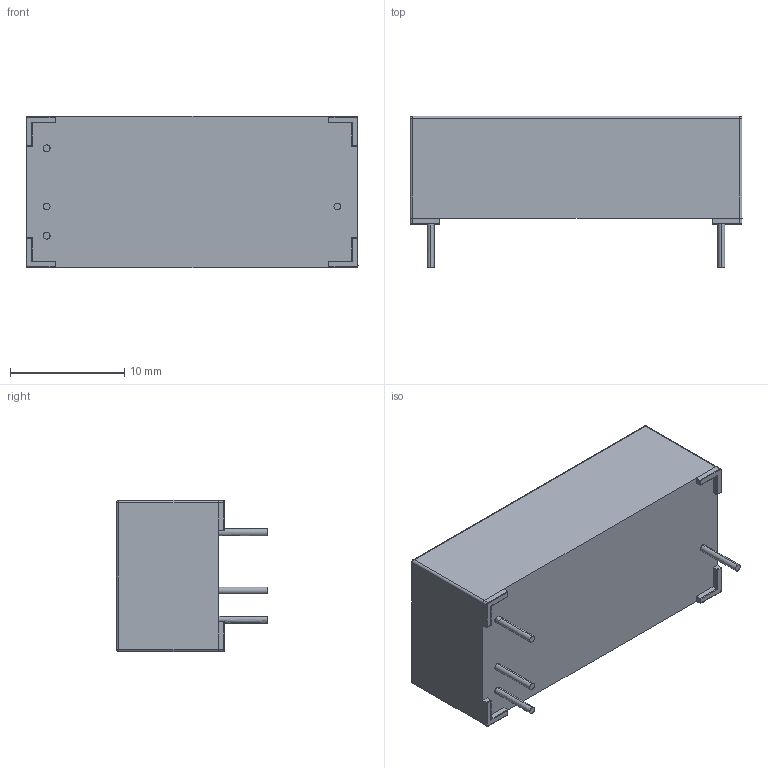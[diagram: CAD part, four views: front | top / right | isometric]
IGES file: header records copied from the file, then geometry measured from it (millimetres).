
Start section: SolidWorks IGES file using analytic representation for surfaces
Global section: file name: T:\Relays in Solidworks\Batch 4\85-1-B.IGS; native system: SolidWorks 2009; preprocessor: SolidWorks 2009; author: alex.leming; date: 100629.162458; units: millimetre
Bounding box: 29 x 13.2 x 13.2 mm (x, y, z)
Surface area: 1557.9 mm2 (no closed solid volume)
Topology: 0 solids, 0 shells, 712 faces, 7155 edges, 7154 vertices
Faces by surface type: bspline 664, revolution 48
